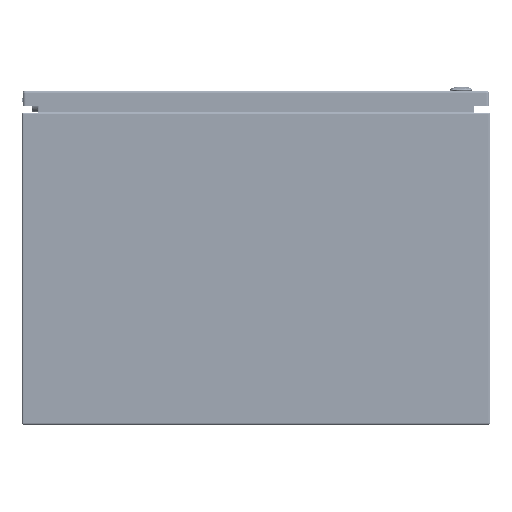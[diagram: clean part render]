
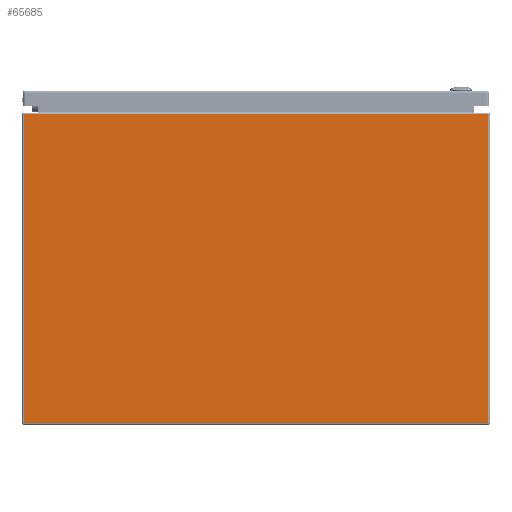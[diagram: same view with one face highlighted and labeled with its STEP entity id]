
A CAD part, front view. The second image highlights one B-rep face of the part: STEP entity #65685.
In plain terms, the highlighted planar face has unit normal (0, -1, 0).
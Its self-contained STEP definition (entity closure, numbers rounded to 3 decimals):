
#6372=LINE('',#92125,#10417);
#6379=LINE('',#92140,#10424);
#6381=LINE('',#92147,#10426);
#6383=LINE('',#92156,#10428);
#10417=VECTOR('',#76521,0.394);
#10424=VECTOR('',#76534,0.394);
#10426=VECTOR('',#76542,0.394);
#10428=VECTOR('',#76554,0.394);
#15513=FACE_OUTER_BOUND('',#19549,.T.);
#19549=EDGE_LOOP('',(#43714,#43715,#43716,#43717));
#26346=VERTEX_POINT('',#92095);
#26353=VERTEX_POINT('',#92121);
#26358=VERTEX_POINT('',#92139);
#26360=VERTEX_POINT('',#92145);
#33067=EDGE_CURVE('',#26346,#26353,#6372,.T.);
#33074=EDGE_CURVE('',#26353,#26358,#6379,.T.);
#33078=EDGE_CURVE('',#26360,#26346,#6381,.T.);
#33083=EDGE_CURVE('',#26360,#26358,#6383,.T.);
#43714=ORIENTED_EDGE('',*,*,#33067,.F.);
#43715=ORIENTED_EDGE('',*,*,#33078,.F.);
#43716=ORIENTED_EDGE('',*,*,#33083,.T.);
#43717=ORIENTED_EDGE('',*,*,#33074,.F.);
#64281=PLANE('',#70618);
#65685=ADVANCED_FACE('',(#15513),#64281,.F.);
#70618=AXIS2_PLACEMENT_3D('',#92167,#76568,#76569);
#76521=DIRECTION('',(1.,0.,0.));
#76534=DIRECTION('',(0.,0.,-1.));
#76542=DIRECTION('',(0.,0.,1.));
#76554=DIRECTION('',(1.,0.,0.));
#76568=DIRECTION('center_axis',(0.,1.,0.));
#76569=DIRECTION('ref_axis',(0.,0.,1.));
#92095=CARTESIAN_POINT('',(-11.916,-15.,15.916));
#92121=CARTESIAN_POINT('',(11.916,-15.,15.916));
#92125=CARTESIAN_POINT('',(5.979,-15.,15.916));
#92139=CARTESIAN_POINT('',(11.916,-15.,0.084));
#92140=CARTESIAN_POINT('',(11.916,-15.,8.));
#92145=CARTESIAN_POINT('',(-11.916,-15.,0.084));
#92147=CARTESIAN_POINT('',(-11.916,-15.,8.));
#92156=CARTESIAN_POINT('',(-5.958,-15.,0.084));
#92167=CARTESIAN_POINT('Origin',(0.,-15.,8.));
